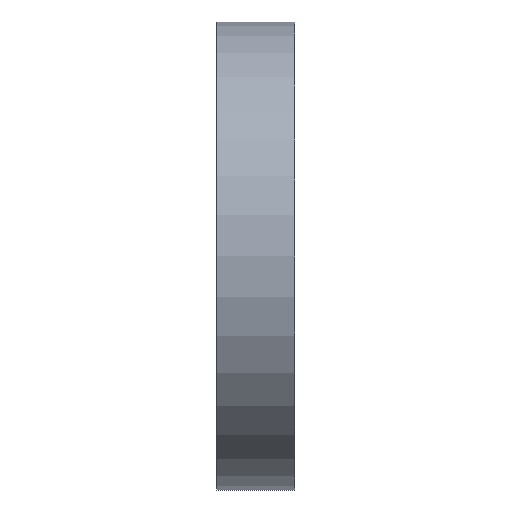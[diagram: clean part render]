
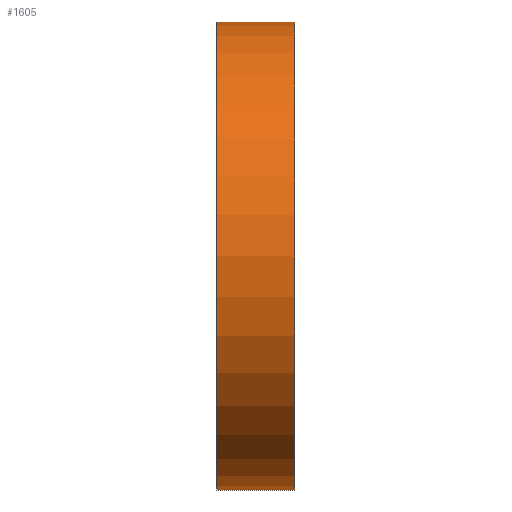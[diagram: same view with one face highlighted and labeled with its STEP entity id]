
A CAD part, left-side view. The second image highlights one B-rep face of the part: STEP entity #1605.
In plain terms, the highlighted cylindrical face has radius 90 mm (diameter 180 mm), a partial arc.
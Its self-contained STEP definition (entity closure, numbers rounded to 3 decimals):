
#22 = CARTESIAN_POINT ( 'NONE',  ( 0., 15., -90. ) ) ;
#38 = ORIENTED_EDGE ( 'NONE', *, *, #653, .T. ) ;
#66 = CARTESIAN_POINT ( 'NONE',  ( 0., 15., 0. ) ) ;
#139 = DIRECTION ( 'NONE',  ( 0., -1., 0. ) ) ;
#229 = VECTOR ( 'NONE', #1414, 1000. ) ;
#266 = CARTESIAN_POINT ( 'NONE',  ( 0., 15., 90. ) ) ;
#299 = EDGE_CURVE ( 'NONE', #1084, #2293, #1452, .T. ) ;
#318 = FACE_OUTER_BOUND ( 'NONE', #1249, .T. ) ;
#367 = CARTESIAN_POINT ( 'NONE',  ( 0., 0., 90. ) ) ;
#369 = EDGE_CURVE ( 'NONE', #601, #1463, #1201, .T. ) ;
#573 = DIRECTION ( 'NONE',  ( 0., 0., -1. ) ) ;
#580 = ORIENTED_EDGE ( 'NONE', *, *, #369, .T. ) ;
#601 = VERTEX_POINT ( 'NONE', #266 ) ;
#653 = EDGE_CURVE ( 'NONE', #1463, #2293, #1069, .T. ) ;
#785 = AXIS2_PLACEMENT_3D ( 'NONE', #66, #1117, #573 ) ;
#894 = EDGE_CURVE ( 'NONE', #601, #1084, #2133, .T. ) ;
#1050 = AXIS2_PLACEMENT_3D ( 'NONE', #1938, #2298, #1767 ) ;
#1069 = LINE ( 'NONE', #2078, #229 ) ;
#1080 = DIRECTION ( 'NONE',  ( 0., -1., 0. ) ) ;
#1084 = VERTEX_POINT ( 'NONE', #1410 ) ;
#1117 = DIRECTION ( 'NONE',  ( 0., -1., 0. ) ) ;
#1201 = CIRCLE ( 'NONE', #785, 90. ) ;
#1249 = EDGE_LOOP ( 'NONE', ( #1719, #580, #38, #1586 ) ) ;
#1410 = CARTESIAN_POINT ( 'NONE',  ( 0., -15., 90. ) ) ;
#1414 = DIRECTION ( 'NONE',  ( 0., -1., 0. ) ) ;
#1452 = CIRCLE ( 'NONE', #1050, 90. ) ;
#1463 = VERTEX_POINT ( 'NONE', #22 ) ;
#1586 = ORIENTED_EDGE ( 'NONE', *, *, #299, .F. ) ;
#1605 = ADVANCED_FACE ( 'NONE', ( #318 ), #1940, .T. ) ;
#1695 = AXIS2_PLACEMENT_3D ( 'NONE', #1893, #139, #1918 ) ;
#1709 = VECTOR ( 'NONE', #1080, 1000. ) ;
#1719 = ORIENTED_EDGE ( 'NONE', *, *, #894, .F. ) ;
#1767 = DIRECTION ( 'NONE',  ( 0., 0., -1. ) ) ;
#1893 = CARTESIAN_POINT ( 'NONE',  ( 0., 0., 0. ) ) ;
#1918 = DIRECTION ( 'NONE',  ( 0., 0., -1. ) ) ;
#1938 = CARTESIAN_POINT ( 'NONE',  ( 0., -15., 0. ) ) ;
#1940 = CYLINDRICAL_SURFACE ( 'NONE', #1695, 90. ) ;
#2078 = CARTESIAN_POINT ( 'NONE',  ( 0., 0., -90. ) ) ;
#2133 = LINE ( 'NONE', #367, #1709 ) ;
#2244 = CARTESIAN_POINT ( 'NONE',  ( 0., -15., -90. ) ) ;
#2293 = VERTEX_POINT ( 'NONE', #2244 ) ;
#2298 = DIRECTION ( 'NONE',  ( 0., -1., 0. ) ) ;
